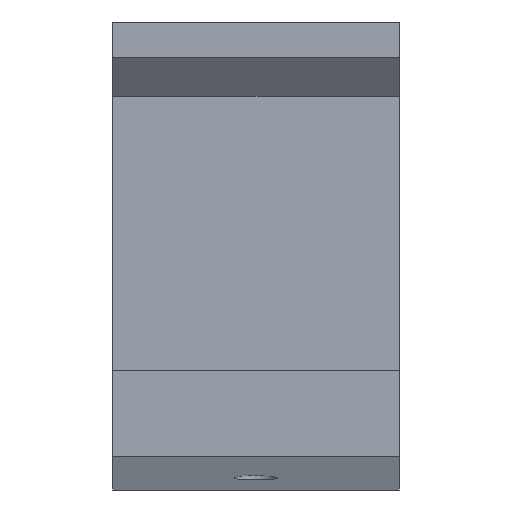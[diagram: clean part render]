
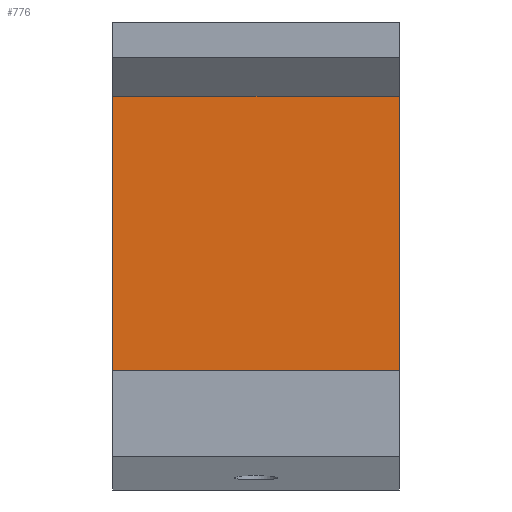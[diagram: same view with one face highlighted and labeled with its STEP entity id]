
A CAD part, top view. The second image highlights one B-rep face of the part: STEP entity #776.
In plain terms, the highlighted planar face has unit normal (0, 0, 1).
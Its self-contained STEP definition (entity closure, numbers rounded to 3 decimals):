
#32 = PLANE('',#33);
#33 = AXIS2_PLACEMENT_3D('',#34,#35,#36);
#34 = CARTESIAN_POINT('',(-33.,10.145,-102.));
#35 = DIRECTION('',(1.,-0.,-0.));
#36 = DIRECTION('',(0.,0.,-1.));
#253 = VERTEX_POINT('',#254);
#254 = CARTESIAN_POINT('',(-33.,18.913,-65.2));
#268 = PLANE('',#269);
#269 = AXIS2_PLACEMENT_3D('',#270,#271,#272);
#270 = CARTESIAN_POINT('',(-33.,19.67,-58.));
#271 = DIRECTION('',(-0.,-0.995,0.105));
#272 = DIRECTION('',(0.,0.105,0.995));
#280 = EDGE_CURVE('',#253,#281,#283,.T.);
#281 = VERTEX_POINT('',#282);
#282 = CARTESIAN_POINT('',(-33.,38.817,-65.2));
#283 = SURFACE_CURVE('',#284,(#288,#295),.PCURVE_S1.);
#284 = LINE('',#285,#286);
#285 = CARTESIAN_POINT('',(-33.,14.529,-65.2));
#286 = VECTOR('',#287,1.);
#287 = DIRECTION('',(-0.,1.,-0.));
#288 = PCURVE('',#32,#289);
#289 = DEFINITIONAL_REPRESENTATION('',(#290),#294);
#290 = LINE('',#291,#292);
#291 = CARTESIAN_POINT('',(-36.8,4.384));
#292 = VECTOR('',#293,1.);
#293 = DIRECTION('',(-0.,1.));
#294 = ( GEOMETRIC_REPRESENTATION_CONTEXT(2) 
PARAMETRIC_REPRESENTATION_CONTEXT() REPRESENTATION_CONTEXT('2D SPACE',''
  ) );
#295 = PCURVE('',#296,#301);
#296 = PLANE('',#297);
#297 = AXIS2_PLACEMENT_3D('',#298,#299,#300);
#298 = CARTESIAN_POINT('',(-33.,14.529,-65.2));
#299 = DIRECTION('',(-0.,-0.,-1.));
#300 = DIRECTION('',(0.,-1.,0.));
#301 = DEFINITIONAL_REPRESENTATION('',(#302),#306);
#302 = LINE('',#303,#304);
#303 = CARTESIAN_POINT('',(-0.,0.));
#304 = VECTOR('',#305,1.);
#305 = DIRECTION('',(-1.,0.));
#306 = ( GEOMETRIC_REPRESENTATION_CONTEXT(2) 
PARAMETRIC_REPRESENTATION_CONTEXT() REPRESENTATION_CONTEXT('2D SPACE',''
  ) );
#324 = PLANE('',#325);
#325 = AXIS2_PLACEMENT_3D('',#326,#327,#328);
#326 = CARTESIAN_POINT('',(-33.,41.5,-58.));
#327 = DIRECTION('',(-0.,-0.937,0.349));
#328 = DIRECTION('',(0.,0.349,0.937));
#550 = PLANE('',#551);
#551 = AXIS2_PLACEMENT_3D('',#552,#553,#554);
#552 = CARTESIAN_POINT('',(-13.,10.145,-102.));
#553 = DIRECTION('',(1.,-0.,-0.));
#554 = DIRECTION('',(0.,0.,-1.));
#734 = VERTEX_POINT('',#735);
#735 = CARTESIAN_POINT('',(-13.,38.817,-65.2));
#756 = EDGE_CURVE('',#734,#281,#757,.T.);
#757 = SURFACE_CURVE('',#758,(#762,#769),.PCURVE_S1.);
#758 = LINE('',#759,#760);
#759 = CARTESIAN_POINT('',(-33.,38.817,-65.2));
#760 = VECTOR('',#761,1.);
#761 = DIRECTION('',(-1.,-0.,-0.));
#762 = PCURVE('',#324,#763);
#763 = DEFINITIONAL_REPRESENTATION('',(#764),#768);
#764 = LINE('',#765,#766);
#765 = CARTESIAN_POINT('',(-7.684,0.));
#766 = VECTOR('',#767,1.);
#767 = DIRECTION('',(-0.,1.));
#768 = ( GEOMETRIC_REPRESENTATION_CONTEXT(2) 
PARAMETRIC_REPRESENTATION_CONTEXT() REPRESENTATION_CONTEXT('2D SPACE',''
  ) );
#769 = PCURVE('',#296,#770);
#770 = DEFINITIONAL_REPRESENTATION('',(#771),#775);
#771 = LINE('',#772,#773);
#772 = CARTESIAN_POINT('',(-24.288,0.));
#773 = VECTOR('',#774,1.);
#774 = DIRECTION('',(-0.,1.));
#775 = ( GEOMETRIC_REPRESENTATION_CONTEXT(2) 
PARAMETRIC_REPRESENTATION_CONTEXT() REPRESENTATION_CONTEXT('2D SPACE',''
  ) );
#776 = ADVANCED_FACE('',(#777),#296,.F.);
#777 = FACE_BOUND('',#778,.T.);
#778 = EDGE_LOOP('',(#779,#780,#803,#824));
#779 = ORIENTED_EDGE('',*,*,#280,.F.);
#780 = ORIENTED_EDGE('',*,*,#781,.T.);
#781 = EDGE_CURVE('',#253,#782,#784,.T.);
#782 = VERTEX_POINT('',#783);
#783 = CARTESIAN_POINT('',(-13.,18.913,-65.2));
#784 = SURFACE_CURVE('',#785,(#789,#796),.PCURVE_S1.);
#785 = LINE('',#786,#787);
#786 = CARTESIAN_POINT('',(-33.,18.913,-65.2));
#787 = VECTOR('',#788,1.);
#788 = DIRECTION('',(1.,-0.,-0.));
#789 = PCURVE('',#296,#790);
#790 = DEFINITIONAL_REPRESENTATION('',(#791),#795);
#791 = LINE('',#792,#793);
#792 = CARTESIAN_POINT('',(-4.384,0.));
#793 = VECTOR('',#794,1.);
#794 = DIRECTION('',(-0.,-1.));
#795 = ( GEOMETRIC_REPRESENTATION_CONTEXT(2) 
PARAMETRIC_REPRESENTATION_CONTEXT() REPRESENTATION_CONTEXT('2D SPACE',''
  ) );
#796 = PCURVE('',#268,#797);
#797 = DEFINITIONAL_REPRESENTATION('',(#798),#802);
#798 = LINE('',#799,#800);
#799 = CARTESIAN_POINT('',(-7.24,0.));
#800 = VECTOR('',#801,1.);
#801 = DIRECTION('',(-0.,-1.));
#802 = ( GEOMETRIC_REPRESENTATION_CONTEXT(2) 
PARAMETRIC_REPRESENTATION_CONTEXT() REPRESENTATION_CONTEXT('2D SPACE',''
  ) );
#803 = ORIENTED_EDGE('',*,*,#804,.T.);
#804 = EDGE_CURVE('',#782,#734,#805,.T.);
#805 = SURFACE_CURVE('',#806,(#810,#817),.PCURVE_S1.);
#806 = LINE('',#807,#808);
#807 = CARTESIAN_POINT('',(-13.,14.529,-65.2));
#808 = VECTOR('',#809,1.);
#809 = DIRECTION('',(-0.,1.,-0.));
#810 = PCURVE('',#296,#811);
#811 = DEFINITIONAL_REPRESENTATION('',(#812),#816);
#812 = LINE('',#813,#814);
#813 = CARTESIAN_POINT('',(-0.,-20.));
#814 = VECTOR('',#815,1.);
#815 = DIRECTION('',(-1.,0.));
#816 = ( GEOMETRIC_REPRESENTATION_CONTEXT(2) 
PARAMETRIC_REPRESENTATION_CONTEXT() REPRESENTATION_CONTEXT('2D SPACE',''
  ) );
#817 = PCURVE('',#550,#818);
#818 = DEFINITIONAL_REPRESENTATION('',(#819),#823);
#819 = LINE('',#820,#821);
#820 = CARTESIAN_POINT('',(-36.8,4.384));
#821 = VECTOR('',#822,1.);
#822 = DIRECTION('',(-0.,1.));
#823 = ( GEOMETRIC_REPRESENTATION_CONTEXT(2) 
PARAMETRIC_REPRESENTATION_CONTEXT() REPRESENTATION_CONTEXT('2D SPACE',''
  ) );
#824 = ORIENTED_EDGE('',*,*,#756,.T.);
